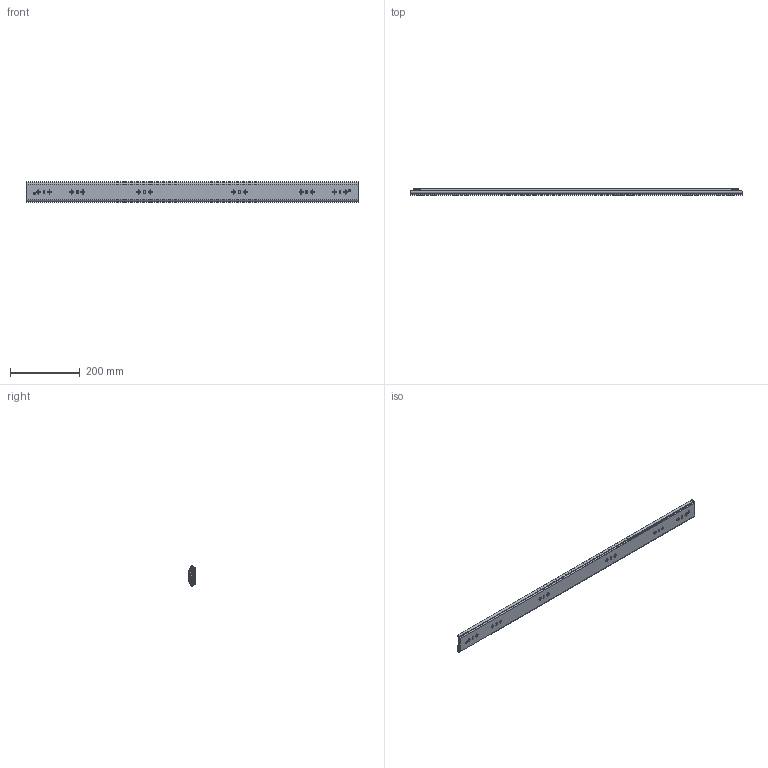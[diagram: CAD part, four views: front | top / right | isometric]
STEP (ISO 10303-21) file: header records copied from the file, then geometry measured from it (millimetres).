
FILE_DESCRIPTION((''),'2;1');
FILE_NAME('1057-C-38_ASM','2025-10-24T',('蔽翩'),(''),'CREO PARAMETRIC BY PTC INC, 2018220','CREO PARAMETRIC BY PTC INC, 2018220','');
FILE_SCHEMA(('CONFIG_CONTROL_DESIGN'));
Products named in the file (21): KP-57-01WEIKE-31_________; MAODING-WAI_________; 1057DAZHUJIA-20GE1_________; 1057ZHUJIADANWEIJIAO123_____; 1057-5-6GANZHU1_________; 1057DAZHUJIA-20GE_12_ASM; 1057-C-20-KE__________ASM; KP-57-01ZHONGGUI-36_; PEIJIAN-22_________; ZHUANJIAO112_________; LIUJIAO-DING11_________; MAODING-P_________; 1057-XIAOJIAOLUN38; PEIJIAN-ZHONG__________ASM; 1057XIAOZHUJIA___20__________; 1057XIAOZHUJIA-20GE___________ASM; KP-57-01ZHONGGUI-36__ASM; KP-57-01NEIGUI-241_________; XIN-JIAOGUAN38; KP-57-01NEIGUI-241__________ASM; 1057-C-38_ASM
Assembly tree (155 placements, depth 4):
  1057-C-38_ASM
    1057-C-20-KE__________ASM
      KP-57-01WEIKE-31_________
      MAODING-WAI_________  x2
      1057DAZHUJIA-20GE_12_ASM
        1057DAZHUJIA-20GE1_________
        1057ZHUJIADANWEIJIAO123_____  x2
        1057-5-6GANZHU1_________  x64
    KP-57-01ZHONGGUI-36__ASM
      KP-57-01ZHONGGUI-36_
      PEIJIAN-ZHONG__________ASM  x2
        PEIJIAN-22_________
        ZHUANJIAO112_________
        LIUJIAO-DING11_________
        MAODING-P_________
        1057-XIAOJIAOLUN38
      MAODING-WAI_________  x2
      1057XIAOZHUJIA-20GE___________ASM
        1057XIAOZHUJIA___20__________
        1057-5-6GANZHU1_________  x64
        1057ZHUJIADANWEIJIAO123_____  x2
    KP-57-01NEIGUI-241__________ASM
      KP-57-01NEIGUI-241_________
      XIN-JIAOGUAN38  x2
Bounding box: 950 x 19.8 x 57.67 mm (x, y, z)
Volume: 406753.4 mm3; surface area: 474269.4 mm2
Topology: 153 solids, 153 shells, 4038 faces, 11222 edges, 6972 vertices
Faces by surface type: plane 1802, cylinder 1638, sphere 262, bspline 118, cone 114, torus 96, extrusion 8
Entity records: 115241 total; most frequent: CARTESIAN_POINT 24355, DIRECTION 19304, ORIENTED_EDGE 18854, EDGE_CURVE 9427, AXIS2_PLACEMENT_3D 6676, VERTEX_POINT 6074, VECTOR 5952, LINE 5948
